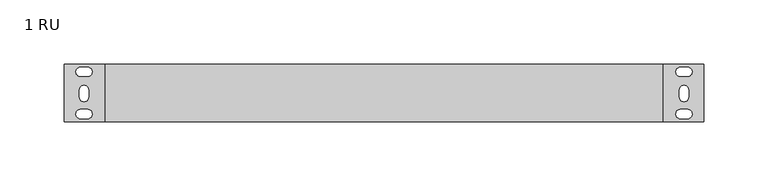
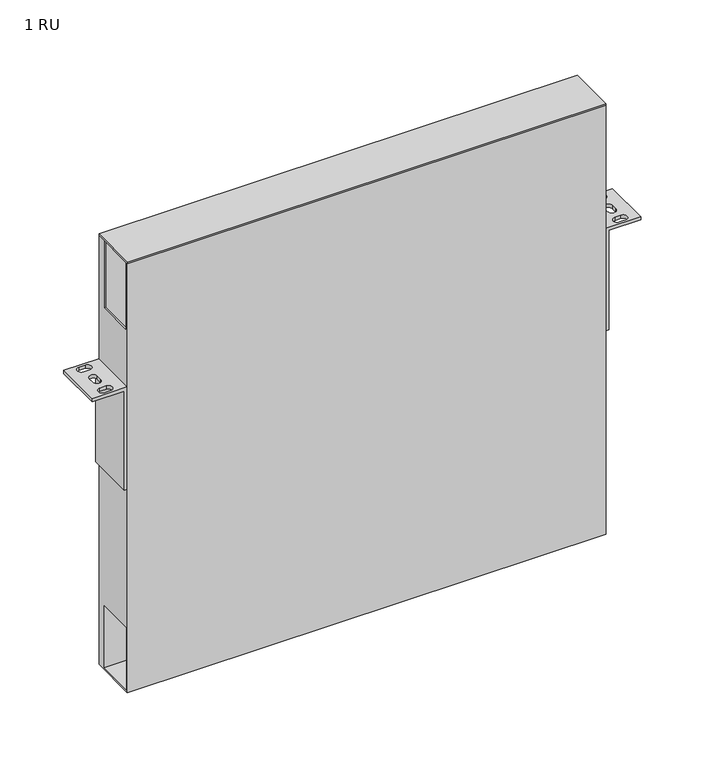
"""IFC4 building model written with IfcOpenShell, lengths in millimetres: electric appliance geometry, Housing-Rack_Mount-Corning-LANScape : 1 RU."""

import ifcopenshell
import ifcopenshell.guid

model = None  # the IFC model being written
_history = None  # IfcOwnerHistory: only IFC2X3 demands one
_inside = {}  # id of a spatial element -> (the spatial element, [elements in it])
_under = {}  # id of a project, library or spatial element -> (it, [spatial elements below it])
_declared = {}  # id of a project -> (the project, [libraries it declares])
_typed = {}  # id of a type object -> (the type object, [elements of that type])
_made_of = {}  # id of a material, layer set ... -> (it, [elements and type objects made of it])


def new_model(schema):
    """Start an empty IFC model of exactly this schema.

    Asked for "IFC4X3", IfcOpenShell would pick the latest addendum, in which some entities
    have other attributes; the version numbers below select the first issue.
    IFC2X3 requires an IfcOwnerHistory on every rooted entity: one is made here for all.
    """
    global model, _history
    if schema == "IFC4X3":
        model = ifcopenshell.file(schema_version=(4, 3, 0, 0))
    else:
        model = ifcopenshell.file(schema=schema)
    _inside.clear()
    _under.clear()
    _declared.clear()
    _typed.clear()
    _made_of.clear()
    _history = None
    if model.schema == "IFC2X3":
        org = make("IfcOrganization", Name="unknown")
        user = make(
            "IfcPersonAndOrganization",
            ThePerson=make("IfcPerson", FamilyName="unknown"),
            TheOrganization=org,
        )
        app = make(
            "IfcApplication",
            ApplicationDeveloper=org,
            Version="unknown",
            ApplicationFullName="unknown",
            ApplicationIdentifier="unknown",
        )
        _history = make(
            "IfcOwnerHistory",
            OwningUser=user,
            OwningApplication=app,
            ChangeAction="ADDED",
            CreationDate=0,
        )
    return model


def make(cls, **values):
    """One entity of the class cls with the attributes given. An attribute that is None is left unset."""
    return model.create_entity(
        cls, **{name: value for name, value in values.items() if value is not None}
    )


def rooted(cls, **values):
    """An entity with a GlobalId (a new one), such as an element, a storey or a relation."""
    return make(cls, GlobalId=ifcopenshell.guid.new(), OwnerHistory=_history, **values)


def si_unit(unit_type, name, prefix=None):
    """IfcSIUnit, for example si_unit("LENGTHUNIT", "METRE", prefix="MILLI")."""
    return make("IfcSIUnit", UnitType=unit_type, Prefix=prefix, Name=name)


def assignment(units):
    """IfcUnitAssignment: the units of a project."""
    return None if units is None else make("IfcUnitAssignment", Units=units)


def point(xyz):
    """IfcCartesianPoint."""
    return None if xyz is None else make("IfcCartesianPoint", Coordinates=xyz)


def direction(xyz):
    """IfcDirection."""
    return None if xyz is None else make("IfcDirection", DirectionRatios=xyz)


def frame(location, z_axis=None, x_axis=None):
    """IfcAxis2Placement3D, a coordinate frame: its origin and axes. An axis left out is left unset."""
    return make(
        "IfcAxis2Placement3D",
        Location=point(location),
        Axis=direction(z_axis),
        RefDirection=direction(x_axis),
    )


def origin():
    """The frame at (0, 0, 0) with its axes left unset."""
    return frame((0.0, 0.0, 0.0))


def place(relative_to, where):
    """IfcLocalPlacement: puts the frame where relative to a parent placement (None: the world)."""
    return make(
        "IfcLocalPlacement", PlacementRelTo=relative_to, RelativePlacement=where
    )


def context(
    kind, dimensions, precision=None, world=None, true_north=None, identifier=None
):
    """IfcGeometricRepresentationContext, for example the 3D "Model" context."""
    return make(
        "IfcGeometricRepresentationContext",
        ContextIdentifier=identifier,
        ContextType=kind,
        CoordinateSpaceDimension=dimensions,
        Precision=precision,
        WorldCoordinateSystem=world,
        TrueNorth=true_north,
    )


def project(units=None, contexts=None):
    """IfcProject with its units and contexts."""
    return rooted(
        "IfcProject",
        Name="project",
        RepresentationContexts=contexts,
        UnitsInContext=assignment(units),
    )


def spatial(cls, under=None, at=None, **own):
    """A site, building, storey or space (cls), placed at a placement, below another one or the project."""
    s = rooted(cls, ObjectPlacement=at, **own)
    if under is not None:
        _under.setdefault(under.id(), (under, []))[1].append(s)
    return s


def polyline(points):
    """IfcPolyline through the points."""
    return make("IfcPolyline", Points=[point(p) for p in points])


def circle_curve(where, radius):
    """IfcCircle in the frame where."""
    return make("IfcCircle", Position=where, Radius=radius)


def outline(outer, holes=None, kind="AREA"):
    """IfcArbitraryClosedProfileDef: a profile drawn as a closed curve; with holes, ...WithVoids."""
    if holes is None:
        return make("IfcArbitraryClosedProfileDef", ProfileType=kind, OuterCurve=outer)
    return make(
        "IfcArbitraryProfileDefWithVoids",
        ProfileType=kind,
        OuterCurve=outer,
        InnerCurves=holes,
    )


def extrude(swept, where, along, depth):
    """IfcExtrudedAreaSolid: the profile swept, set in the frame where, extruded along a direction by depth."""
    return make(
        "IfcExtrudedAreaSolid",
        SweptArea=swept,
        Position=where,
        ExtrudedDirection=direction(along),
        Depth=depth,
    )


def faces_of(points, faces, orient=None, outer=None):
    """IfcFace entities. A face is a list of loops; a loop is a list of indices into points, from 0.

    orient and outer hold one flag for each loop. By default every Orientation is true, the
    first loop of a face is its IfcFaceOuterBound and the others are IfcFaceBound.
    """
    made = []
    for i, loops in enumerate(faces):
        bounds = []
        for j, loop in enumerate(loops):
            is_outer = j == 0 if outer is None else outer[i][j]
            bounds.append(
                make(
                    "IfcFaceOuterBound" if is_outer else "IfcFaceBound",
                    Bound=make("IfcPolyLoop", Polygon=[points[k] for k in loop]),
                    Orientation=True if orient is None else orient[i][j],
                )
            )
        made.append(make("IfcFace", Bounds=bounds))
    return made


def faceted_brep(points, faces, orient=None, outer=None, voids=None):
    """IfcFacetedBrep: a solid bounded by flat faces; with voids (closed shells), ...WithVoids."""
    shared = [point(p) for p in points]
    hull = make("IfcClosedShell", CfsFaces=faces_of(shared, faces, orient, outer))
    if voids is None:
        return make("IfcFacetedBrep", Outer=hull)
    return make(
        "IfcFacetedBrepWithVoids",
        Outer=hull,
        Voids=[
            make(cls, CfsFaces=faces_of(shared, fs, o, b)) for cls, fs, o, b in voids
        ],
    )


def shape(context_of_items, identifier, shape_type, items):
    """IfcShapeRepresentation: the items that make up one representation, for example the "Body"."""
    return make(
        "IfcShapeRepresentation",
        ContextOfItems=context_of_items,
        RepresentationIdentifier=identifier,
        RepresentationType=shape_type,
        Items=items,
    )


def source(mapping_origin, context_of_items, identifier, shape_type, items):
    """IfcRepresentationMap: a shape defined once, which mapped items show again and again."""
    return make(
        "IfcRepresentationMap",
        MappingOrigin=mapping_origin,
        MappedRepresentation=shape(context_of_items, identifier, shape_type, items),
    )


def transform(
    local_origin,
    x_axis=None,
    y_axis=None,
    z_axis=None,
    scale=None,
    scale2=None,
    scale3=None,
    uniform=True,
):
    """IfcCartesianTransformationOperator3D, or its non-uniform kind. x_axis, y_axis, z_axis: its Axis1, 2, 3."""
    if uniform:
        return make(
            "IfcCartesianTransformationOperator3D",
            Axis1=direction(x_axis),
            Axis2=direction(y_axis),
            LocalOrigin=point(local_origin),
            Scale=scale,
            Axis3=direction(z_axis),
        )
    return make(
        "IfcCartesianTransformationOperator3DnonUniform",
        Axis1=direction(x_axis),
        Axis2=direction(y_axis),
        LocalOrigin=point(local_origin),
        Scale=scale,
        Axis3=direction(z_axis),
        Scale2=scale2,
        Scale3=scale3,
    )


def mapped(mapping_source, mapping_target):
    """IfcMappedItem: shows the shape of a source again, moved by a transform."""
    return make(
        "IfcMappedItem", MappingSource=mapping_source, MappingTarget=mapping_target
    )


def made_of(thing, what):
    """Note that an element or type object is made of a material, layer set ...; save() writes the relation."""
    if what is not None:
        _made_of.setdefault(what.id(), (what, []))[1].append(thing)
    return thing


def element(
    cls,
    number,
    at=None,
    inside=None,
    cuts=None,
    type_object=None,
    material=None,
    context=None,
    identifier="Body",
    shape_type=None,
    held_by="IfcProductDefinitionShape",
    body=None,
    shapes=None,
    **own,
):
    """One element of the class cls, such as IfcWall. Its Tag is "e" and its number.

    at: its placement. inside: the storey or other place that contains it. cuts: it is an
    opening in that element (IfcRelVoidsElement). A single representation is given by context,
    identifier, shape_type and body (its items); several are given by shapes. held_by: the class
    of the entity that holds the representations. save() writes the other relations.
    """
    e = rooted(cls, Tag="e%d" % number, ObjectPlacement=at, **own)
    if body is not None:
        shapes = [shape(context, identifier, shape_type, body)]
    if shapes is not None:
        e.Representation = make(held_by, Representations=shapes)
    if inside is not None:
        _inside.setdefault(inside.id(), (inside, []))[1].append(e)
    if cuts is not None:
        rooted(
            "IfcRelVoidsElement", RelatingBuildingElement=cuts, RelatedOpeningElement=e
        )
    if type_object is not None:
        _typed.setdefault(type_object.id(), (type_object, []))[1].append(e)
    return made_of(e, material)


def aggregate(whole, parts):
    """IfcRelAggregates: a whole, such as a stair, and the parts it consists of."""
    return rooted("IfcRelAggregates", RelatingObject=whole, RelatedObjects=parts)


def save(model, path):
    """Write the relations noted so far, then the file.

    IfcRelAggregates (storeys below a building ...), IfcRelContainedInSpatialStructure (elements
    in a storey), IfcRelDefinesByType, IfcRelAssociatesMaterial and IfcRelDeclares: one each for
    every whole, place, type object, material and project.
    """
    for whole, parts in _under.values():
        aggregate(whole, parts)
    for where, things in _inside.values():
        rooted(
            "IfcRelContainedInSpatialStructure",
            RelatedElements=things,
            RelatingStructure=where,
        )
    for kind, things in _typed.values():
        rooted("IfcRelDefinesByType", RelatedObjects=things, RelatingType=kind)
    for what, things in _made_of.values():
        rooted("IfcRelAssociatesMaterial", RelatedObjects=things, RelatingMaterial=what)
    for by, libraries in _declared.values():
        rooted("IfcRelDeclares", RelatingContext=by, RelatedDefinitions=libraries)
    model.write(path)


def plane_surface(at):
    """IfcPlane: the flat surface through the origin of the frame at, square to its z axis."""
    return make("IfcPlane", Position=at)


def revolved_surface(curve, axis_point, axis_direction):
    """IfcSurfaceOfRevolution: the curve turned about the line through axis_point along axis_direction."""
    return make(
        "IfcSurfaceOfRevolution",
        SweptCurve=make("IfcArbitraryOpenProfileDef", ProfileType="CURVE", Curve=curve),
        AxisPosition=make("IfcAxis1Placement", Location=point(axis_point), Axis=direction(axis_direction)),
    )


def advanced_brep(points, edges, surfaces, faces):
    """IfcAdvancedBrep: a solid bounded by faces that lie on surfaces and meet in shared edges.

    An edge is (start, end): straight between two places in points (the first is 0);
    or (start, end, curve); or (start, end, curve, False) where it runs against its curve.
    A face is (place in surfaces, loops), or (place, loops, False) where it looks against
    its surface's normal. A loop lists edges by number (the first is 1), with a minus sign
    where the edge is run from its end to its start. The first loop is the outer one.
    """
    corners = [point(p) for p in points]
    vertices = [make("IfcVertexPoint", VertexGeometry=c) for c in corners]
    made = []
    for start, end, *more in edges:
        made.append(
            make(
                "IfcEdgeCurve",
                EdgeStart=vertices[start],
                EdgeEnd=vertices[end],
                EdgeGeometry=more[0] if more else make("IfcPolyline", Points=[corners[start], corners[end]]),
                SameSense=more[1] if len(more) > 1 else True,
            )
        )
    hull = []
    for where, loops, *sense in faces:
        bounds = []
        for j, loop in enumerate(loops):
            ring = [make("IfcOrientedEdge", EdgeElement=made[abs(k) - 1], Orientation=k > 0) for k in loop]
            bounds.append(
                make(
                    "IfcFaceOuterBound" if j == 0 else "IfcFaceBound",
                    Bound=make("IfcEdgeLoop", EdgeList=ring),
                    Orientation=True,
                )
            )
        hull.append(make("IfcAdvancedFace", Bounds=bounds, FaceSurface=surfaces[where], SameSense=sense[0] if sense else True))
    return make("IfcAdvancedBrep", Outer=make("IfcClosedShell", CfsFaces=hull))


def electric_appliance_1_ru_e4088363(model_context):
    return source(origin(), model_context, "Body", "SolidModel", [
        extrude(outline(polyline([(216.5858, 0.0), (216.5858, -44.45), (-216.5858, -44.45), (-216.5858, 0.0), (216.5858, 0.0)])), frame((0.0, 0.0, 120.9548), z_axis=(0.0, 0.0, 1.0), x_axis=(1.0, 0.0, 0.0)), (0.0, 0.0, 1.0), 1.39446),
        faceted_brep([(216.5858, -44.45, 120.9548), (-216.5858, -44.45, 120.9548), (-216.5858, -44.45, -289.3568), (216.5858, -44.45, -289.3568), (216.5858, 0.0, 120.9548), (216.5858, 0.0, -289.3568), (-216.5858, 0.0, -289.3568), (-216.5858, 0.0, 120.9548), (216.5858, -42.8625, 120.9548), (-216.5858, -42.8625, 120.9548), (-216.5858, -7.9375, 120.9548), (-214.9983, -7.9375, 120.9548), (-214.9983, -1.5875, 120.9548), (214.9983, -1.5875, 120.9548), (214.9983, -7.9375, 120.9548), (216.5858, -7.9375, 120.9548), (-216.5858, -42.8625, 56.36514), (-216.5858, -7.9375, 56.36514), (-216.5858, -42.8625, -228.39172), (-216.5858, -42.8625, -287.7693), (-216.5858, -7.9375, -287.7693), (-216.5858, -7.9375, -228.39172), (216.5858, -7.9375, 56.36514), (216.5858, -42.8625, 56.36514), (216.5858, -42.8625, -287.7693), (216.5858, -42.8625, -228.39172), (216.5858, -7.9375, -228.39172), (216.5858, -7.9375, -287.7693), (-214.9983, -1.5875, 21.08454), (214.9983, -1.5875, 21.08454), (214.9983, -42.8625, 21.08454), (-214.9983, -42.8625, 21.08454), (-214.9983, -42.8625, 56.36514), (214.9983, -42.8625, 56.36514), (214.9983, -7.9375, 56.36514), (-214.9983, -7.9375, 56.36514)], [[[0, 1, 2, 3]], [[4, 5, 6, 7]], [[1, 0, 8, 9]], [[4, 7, 10, 11, 12, 13, 14, 15]], [[2, 1, 9, 16, 17, 10, 7, 6], [18, 19, 20, 21]], [[3, 2, 6, 5]], [[0, 3, 5, 4, 15, 22, 23, 8], [24, 25, 26, 27]], [[12, 28, 29, 13]], [[30, 31, 32, 16, 9, 8, 23, 33]], [[13, 29, 30, 33, 34, 14]], [[29, 28, 31, 30]], [[28, 12, 11, 35, 32, 31]], [[18, 25, 24, 19]], [[19, 24, 27, 20]], [[20, 27, 26, 21]], [[25, 18, 21, 26]], [[16, 32, 35, 17]], [[33, 23, 22, 34]], [[34, 22, 15, 14]], [[17, 35, 11, 10]]]),
        advanced_brep(
        [(-248.4374, -44.45, 0.0), (-219.45346, -44.45, 0.0), (-219.45346, -44.45, -94.74708), (-216.5858, -44.45, -94.74708), (-216.5858, -44.45, 3.05054), (-248.4374, -44.45, 3.05054), (-248.4374, 0.0, 0.0), (-248.4374, 0.0, 3.05054), (-216.5858, 0.0, 3.05054), (-216.5858, 0.0, -94.74708), (-219.45346, 0.0, -94.74708), (-219.45346, 0.0, 0.0), (-230.3526, -35.052, 0.0), (-235.9406, -35.052, 0.0), (-235.9406, -42.164, 0.0), (-230.3526, -42.164, 0.0), (-236.7026, -19.86026, 0.0), (-236.7026, -25.44826, 0.0), (-229.5906, -25.44826, 0.0), (-229.5906, -19.86026, 0.0), (-230.3526, -2.286, 0.0), (-235.9406, -2.286, 0.0), (-235.9406, -9.398, 0.0), (-230.3526, -9.398, 0.0), (-235.9406, -35.052, 3.05054), (-230.3526, -35.052, 3.05054), (-230.3526, -42.164, 3.05054), (-235.9406, -42.164, 3.05054), (-236.7026, -25.44826, 3.05054), (-236.7026, -19.86026, 3.05054), (-229.5906, -19.86026, 3.05054), (-229.5906, -25.44826, 3.05054), (-235.9406, -2.286, 3.05054), (-230.3526, -2.286, 3.05054), (-230.3526, -9.398, 3.05054), (-235.9406, -9.398, 3.05054)],
        [
            (0, 1),
            (1, 2),
            (2, 3),
            (3, 4),
            (4, 5),
            (5, 0),
            (6, 7),
            (7, 8),
            (8, 9),
            (9, 10),
            (10, 11),
            (11, 6),
            (0, 6),
            (11, 1),
            (12, 13),
            (13, 14, circle_curve(frame((-235.9406, -38.608, 0.0), z_axis=(0.0, 0.0, 1.0), x_axis=(-1.0, 0.0, 0.0)), 3.556)),
            (14, 15),
            (15, 12, circle_curve(frame((-230.3526, -38.608, 0.0), z_axis=(0.0, 0.0, 1.0), x_axis=(-1.0, 0.0, 0.0)), 3.556)),
            (16, 17),
            (17, 18, circle_curve(frame((-233.1466, -25.44826, 0.0), z_axis=(0.0, 0.0, 1.0), x_axis=(-1.0, 0.0, 0.0)), 3.556)),
            (18, 19),
            (19, 16, circle_curve(frame((-233.1466, -19.86026, 0.0), z_axis=(0.0, 0.0, 1.0), x_axis=(-1.0, 0.0, 0.0)), 3.556)),
            (20, 21),
            (21, 22, circle_curve(frame((-235.9406, -5.842, 0.0), z_axis=(0.0, 0.0, 1.0), x_axis=(-1.0, 0.0, 0.0)), 3.556)),
            (22, 23),
            (23, 20, circle_curve(frame((-230.3526, -5.842, 0.0), z_axis=(0.0, 0.0, 1.0), x_axis=(-1.0, 0.0, 0.0)), 3.556)),
            (10, 2),
            (9, 3),
            (8, 4),
            (7, 5),
            (24, 25),
            (25, 26, circle_curve(frame((-230.3526, -38.608, 3.05054), z_axis=(0.0, 0.0, -1.0), x_axis=(-1.0, 0.0, 0.0)), 3.556)),
            (26, 27),
            (27, 24, circle_curve(frame((-235.9406, -38.608, 3.05054), z_axis=(0.0, 0.0, -1.0), x_axis=(-1.0, 0.0, 0.0)), 3.556)),
            (28, 29),
            (29, 30, circle_curve(frame((-233.1466, -19.86026, 3.05054), z_axis=(0.0, 0.0, -1.0), x_axis=(-1.0, 0.0, 0.0)), 3.556)),
            (30, 31),
            (31, 28, circle_curve(frame((-233.1466, -25.44826, 3.05054), z_axis=(0.0, 0.0, -1.0), x_axis=(-1.0, 0.0, 0.0)), 3.556)),
            (32, 33),
            (33, 34, circle_curve(frame((-230.3526, -5.842, 3.05054), z_axis=(0.0, 0.0, -1.0), x_axis=(-1.0, 0.0, 0.0)), 3.556)),
            (34, 35),
            (35, 32, circle_curve(frame((-235.9406, -5.842, 3.05054), z_axis=(0.0, 0.0, -1.0), x_axis=(-1.0, 0.0, 0.0)), 3.556)),
            (24, 13),
            (12, 25),
            (27, 14),
            (26, 15),
            (28, 17),
            (16, 29),
            (31, 18),
            (30, 19),
            (32, 21),
            (20, 33),
            (35, 22),
            (34, 23),
        ],
        [
            plane_surface(frame((-216.5858, -44.45, 0.0), z_axis=(0.0, -1.0, 0.0), x_axis=(1.0, 0.0, 0.0))),
            plane_surface(frame((-216.5858, 0.0, 0.0), z_axis=(0.0, 1.0, 0.0), x_axis=(-1.0, 0.0, 0.0))),
            plane_surface(frame((-248.4374, -44.45, 0.0), z_axis=(0.0, 0.0, -1.0), x_axis=(0.0, 1.0, 0.0))),
            plane_surface(frame((-219.45346, -44.45, 0.0), z_axis=(-1.0, 0.0, 0.0), x_axis=(0.0, 1.0, 0.0))),
            plane_surface(frame((-219.45346, -44.45, -94.74708), z_axis=(0.0, 0.0, -1.0), x_axis=(0.0, 1.0, 0.0))),
            plane_surface(frame((-216.5858, -44.45, -94.74708), z_axis=(1.0, 0.0, 0.0), x_axis=(0.0, 1.0, 0.0))),
            plane_surface(frame((-216.5858, -44.45, 3.05054), z_axis=(0.0, 0.0, 1.0), x_axis=(0.0, 1.0, 0.0))),
            plane_surface(frame((-248.4374, -44.45, 3.05054), z_axis=(-1.0, 0.0, 0.0), x_axis=(0.0, 1.0, 0.0))),
            plane_surface(frame((-230.3526, -35.052, 3.05054), z_axis=(0.0, -1.0, 0.0), x_axis=(0.0, 0.0, -1.0))),
            revolved_surface(polyline([(-239.4966, -38.608, 3.05054), (-239.4966, -38.608, 0.0)]), (-235.9406, -38.608, 0.0), (0.0, 0.0, 1.0)),
            plane_surface(frame((-235.9406, -42.164, 3.05054), z_axis=(-3.739433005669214e-12, 1.0, 0.0), x_axis=(0.0, 0.0, -1.0))),
            revolved_surface(polyline([(-233.9086, -38.608, 3.05054), (-233.9086, -38.608, 0.0)]), (-230.3526, -38.608, 0.0), (0.0, 0.0, 1.0)),
            plane_surface(frame((-236.7026, -19.86026, 3.05054), z_axis=(1.0, 0.0, 0.0), x_axis=(0.0, 0.0, -1.0))),
            revolved_surface(polyline([(-236.70260000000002, -25.44826, 3.05054), (-236.70260000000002, -25.44826, 0.0)]), (-233.1466, -25.44826, 0.0), (0.0, 0.0, 1.0)),
            plane_surface(frame((-229.5906, -25.44826, 3.05054), z_axis=(-1.0, 0.0, 0.0), x_axis=(0.0, 0.0, -1.0))),
            revolved_surface(polyline([(-236.70260000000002, -19.86026, 3.05054), (-236.70260000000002, -19.86026, 0.0)]), (-233.1466, -19.86026, 0.0), (0.0, 0.0, 1.0)),
            plane_surface(frame((-230.3526, -2.286, 3.05054), z_axis=(0.0, -1.0, 0.0), x_axis=(0.0, 0.0, -1.0))),
            revolved_surface(polyline([(-239.4966, -5.842, 3.05054), (-239.4966, -5.842, 0.0)]), (-235.9406, -5.842, 0.0), (0.0, 0.0, 1.0)),
            plane_surface(frame((-235.9406, -9.398, 3.05054), z_axis=(0.0, 1.0, 0.0), x_axis=(0.0, 0.0, -1.0))),
            revolved_surface(polyline([(-233.9086, -5.842, 3.05054), (-233.9086, -5.842, 0.0)]), (-230.3526, -5.842, 0.0), (0.0, 0.0, 1.0)),
        ],
        [
            (0, [[1, 2, 3, 4, 5, 6]]),
            (1, [[7, 8, 9, 10, 11, 12]]),
            (2, [[-1, 13, -12, 14], [15, 16, 17, 18], [19, 20, 21, 22], [23, 24, 25, 26]]),
            (3, [[-2, -14, -11, 27]]),
            (4, [[-3, -27, -10, 28]]),
            (5, [[-4, -28, -9, 29]]),
            (6, [[-5, -29, -8, 30], [31, 32, 33, 34], [35, 36, 37, 38], [39, 40, 41, 42]]),
            (7, [[-6, -30, -7, -13]]),
            (8, [[43, -15, 44, -31]]),
            (9, [[-43, -34, 45, -16]]),
            (10, [[-45, -33, 46, -17]]),
            (11, [[-44, -18, -46, -32]]),
            (12, [[47, -19, 48, -35]]),
            (13, [[-47, -38, 49, -20]]),
            (14, [[-49, -37, 50, -21]]),
            (15, [[-48, -22, -50, -36]]),
            (16, [[51, -23, 52, -39]]),
            (17, [[-51, -42, 53, -24]]),
            (18, [[-53, -41, 54, -25]]),
            (19, [[-52, -26, -54, -40]]),
        ],
    ),
        advanced_brep(
        [(248.4374, -44.45, 0.0), (248.4374, -44.45, 3.05054), (216.5858, -44.45, 3.05054), (216.5858, -44.45, -94.74708), (219.45346, -44.45, -94.74708), (219.45346, -44.45, 0.0), (248.4374, 0.0, 0.0), (219.45346, 0.0, 0.0), (219.45346, 0.0, -94.74708), (216.5858, 0.0, -94.74708), (216.5858, 0.0, 3.05054), (248.4374, 0.0, 3.05054), (230.3526, -42.164, 3.05054), (230.3526, -35.052, 3.05054), (235.9406, -35.052, 3.05054), (235.9406, -42.164, 3.05054), (229.5906, -19.86026, 3.05054), (236.7026, -19.86026, 3.05054), (236.7026, -25.44826, 3.05054), (229.5906, -25.44826, 3.05054), (230.3526, -9.398, 3.05054), (230.3526, -2.286, 3.05054), (235.9406, -2.286, 3.05054), (235.9406, -9.398, 3.05054), (230.3526, -35.052, 0.0), (230.3526, -42.164, 0.0), (235.9406, -42.164, 0.0), (235.9406, -35.052, 0.0), (236.7026, -19.86026, 0.0), (229.5906, -19.86026, 0.0), (229.5906, -25.44826, 0.0), (236.7026, -25.44826, 0.0), (230.3526, -2.286, 0.0), (230.3526, -9.398, 0.0), (235.9406, -9.398, 0.0), (235.9406, -2.286, 0.0)],
        [
            (0, 1),
            (1, 2),
            (2, 3),
            (3, 4),
            (4, 5),
            (5, 0),
            (6, 7),
            (7, 8),
            (8, 9),
            (9, 10),
            (10, 11),
            (11, 6),
            (0, 6),
            (11, 1),
            (10, 2),
            (12, 13, circle_curve(frame((230.3526, -38.608, 3.05054), z_axis=(0.0, 0.0, -1.0), x_axis=(-1.0, 0.0, 0.0)), 3.556)),
            (13, 14),
            (14, 15, circle_curve(frame((235.9406, -38.608, 3.05054), z_axis=(0.0, 0.0, -1.0), x_axis=(-1.0, 0.0, 0.0)), 3.556)),
            (15, 12),
            (16, 17, circle_curve(frame((233.1466, -19.86026, 3.05054), z_axis=(0.0, 0.0, -1.0), x_axis=(-1.0, 0.0, 0.0)), 3.556)),
            (17, 18),
            (18, 19, circle_curve(frame((233.1466, -25.44826, 3.05054), z_axis=(0.0, 0.0, -1.0), x_axis=(-1.0, 0.0, 0.0)), 3.556)),
            (19, 16),
            (20, 21, circle_curve(frame((230.3526, -5.842, 3.05054), z_axis=(0.0, 0.0, -1.0), x_axis=(-1.0, 0.0, 0.0)), 3.556)),
            (21, 22),
            (22, 23, circle_curve(frame((235.9406, -5.842, 3.05054), z_axis=(0.0, 0.0, -1.0), x_axis=(-1.0, 0.0, 0.0)), 3.556)),
            (23, 20),
            (9, 3),
            (8, 4),
            (7, 5),
            (24, 25, circle_curve(frame((230.3526, -38.608, 0.0), z_axis=(0.0, 0.0, 1.0), x_axis=(-1.0, 0.0, 0.0)), 3.556)),
            (25, 26),
            (26, 27, circle_curve(frame((235.9406, -38.608, 0.0), z_axis=(0.0, 0.0, 1.0), x_axis=(-1.0, 0.0, 0.0)), 3.556)),
            (27, 24),
            (28, 29, circle_curve(frame((233.1466, -19.86026, 0.0), z_axis=(0.0, 0.0, 1.0), x_axis=(-1.0, 0.0, 0.0)), 3.556)),
            (29, 30),
            (30, 31, circle_curve(frame((233.1466, -25.44826, 0.0), z_axis=(0.0, 0.0, 1.0), x_axis=(-1.0, 0.0, 0.0)), 3.556)),
            (31, 28),
            (32, 33, circle_curve(frame((230.3526, -5.842, 0.0), z_axis=(0.0, 0.0, 1.0), x_axis=(-1.0, 0.0, 0.0)), 3.556)),
            (33, 34),
            (34, 35, circle_curve(frame((235.9406, -5.842, 0.0), z_axis=(0.0, 0.0, 1.0), x_axis=(-1.0, 0.0, 0.0)), 3.556)),
            (35, 32),
            (12, 25),
            (24, 13),
            (15, 26),
            (14, 27),
            (16, 29),
            (28, 17),
            (19, 30),
            (18, 31),
            (20, 33),
            (32, 21),
            (23, 34),
            (22, 35),
        ],
        [
            plane_surface(frame((-216.5858, -44.45, 0.0), z_axis=(0.0, -1.0, 0.0), x_axis=(1.0, 0.0, 0.0))),
            plane_surface(frame((-216.5858, 0.0, 0.0), z_axis=(0.0, 1.0, 0.0), x_axis=(-1.0, 0.0, 0.0))),
            plane_surface(frame((248.4374, -44.45, 0.0), z_axis=(1.0, 0.0, 0.0), x_axis=(0.0, 1.0, 0.0))),
            plane_surface(frame((248.4374, -44.45, 3.05054), z_axis=(0.0, 0.0, 1.0), x_axis=(0.0, 1.0, 0.0))),
            plane_surface(frame((216.5858, -44.45, 3.05054), z_axis=(-1.0, 0.0, 0.0), x_axis=(0.0, 1.0, 0.0))),
            plane_surface(frame((216.5858, -44.45, -94.74708), z_axis=(0.0, 0.0, -1.0), x_axis=(0.0, 1.0, 0.0))),
            plane_surface(frame((219.45346, -44.45, -94.74708), z_axis=(1.0, 0.0, 0.0), x_axis=(0.0, 1.0, 0.0))),
            plane_surface(frame((219.45346, -44.45, 0.0), z_axis=(0.0, 0.0, -1.0), x_axis=(0.0, 1.0, 0.0))),
            revolved_surface(polyline([(226.79659999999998, -38.608, 3.05054), (226.79659999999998, -38.608, 0.0)]), (230.3526, -38.608, 0.0), (0.0, 0.0, 1.0)),
            plane_surface(frame((230.3526, -42.164, 3.05054), z_axis=(0.0, 1.0, 0.0), x_axis=(0.0, 0.0, -1.0))),
            revolved_surface(polyline([(232.38459999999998, -38.608, 3.05054), (232.38459999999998, -38.608, 0.0)]), (235.9406, -38.608, 0.0), (0.0, 0.0, 1.0)),
            plane_surface(frame((235.9406, -35.052, 3.05054), z_axis=(0.0, -1.0, 0.0), x_axis=(0.0, 0.0, -1.0))),
            revolved_surface(polyline([(229.5906, -19.86026, 3.05054), (229.5906, -19.86026, 0.0)]), (233.1466, -19.86026, 0.0), (0.0, 0.0, 1.0)),
            plane_surface(frame((229.5906, -19.86026, 3.05054), z_axis=(1.0, 0.0, 0.0), x_axis=(0.0, 0.0, -1.0))),
            revolved_surface(polyline([(229.5906, -25.44826, 3.05054), (229.5906, -25.44826, 0.0)]), (233.1466, -25.44826, 0.0), (0.0, 0.0, 1.0)),
            plane_surface(frame((236.7026, -25.44826, 3.05054), z_axis=(-1.0, 0.0, 0.0), x_axis=(0.0, 0.0, -1.0))),
            revolved_surface(polyline([(226.79659999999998, -5.842, 3.05054), (226.79659999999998, -5.842, 0.0)]), (230.3526, -5.842, 0.0), (0.0, 0.0, 1.0)),
            plane_surface(frame((230.3526, -9.398, 3.05054), z_axis=(0.0, 1.0, 0.0), x_axis=(0.0, 0.0, -1.0))),
            revolved_surface(polyline([(232.38459999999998, -5.842, 3.05054), (232.38459999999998, -5.842, 0.0)]), (235.9406, -5.842, 0.0), (0.0, 0.0, 1.0)),
            plane_surface(frame((235.9406, -2.286, 3.05054), z_axis=(0.0, -1.0, 0.0), x_axis=(0.0, 0.0, -1.0))),
        ],
        [
            (0, [[1, 2, 3, 4, 5, 6]]),
            (1, [[7, 8, 9, 10, 11, 12]]),
            (2, [[-1, 13, -12, 14]]),
            (3, [[-2, -14, -11, 15], [16, 17, 18, 19], [20, 21, 22, 23], [24, 25, 26, 27]]),
            (4, [[-3, -15, -10, 28]]),
            (5, [[-4, -28, -9, 29]]),
            (6, [[-5, -29, -8, 30]]),
            (7, [[-6, -30, -7, -13], [31, 32, 33, 34], [35, 36, 37, 38], [39, 40, 41, 42]]),
            (8, [[43, -31, 44, -16]]),
            (9, [[-43, -19, 45, -32]]),
            (10, [[-45, -18, 46, -33]]),
            (11, [[-44, -34, -46, -17]]),
            (12, [[47, -35, 48, -20]]),
            (13, [[-47, -23, 49, -36]]),
            (14, [[-49, -22, 50, -37]]),
            (15, [[-48, -38, -50, -21]]),
            (16, [[51, -39, 52, -24]]),
            (17, [[-51, -27, 53, -40]]),
            (18, [[-53, -26, 54, -41]]),
            (19, [[-52, -42, -54, -25]]),
        ],
    ),
    ])


if __name__ == "__main__":
    model = new_model("IFC4")
    model_context = context("Model", 3, world=origin())
    ifc_project = project(units=[si_unit("LENGTHUNIT", "METRE", prefix="MILLI")], contexts=[model_context])
    site = spatial("IfcSite", under=ifc_project)
    building = spatial("IfcBuilding", under=site)
    placement = place(None, origin())
    electric_appliance_1_ru_shape = electric_appliance_1_ru_e4088363(model_context)
    element("IfcElectricAppliance", 1, ObjectType="Housing-Rack_Mount-Corning-LANScape : 1 RU", at=placement, inside=building, context=model_context, shape_type="MappedRepresentation", body=[
        mapped(electric_appliance_1_ru_shape, transform((0.0, 0.0, 0.0), x_axis=(1.0, 0.0, 0.0), y_axis=(0.0, 1.0, 0.0), z_axis=(0.0, 0.0, 1.0))),
    ])
    save(model, "model.ifc")
